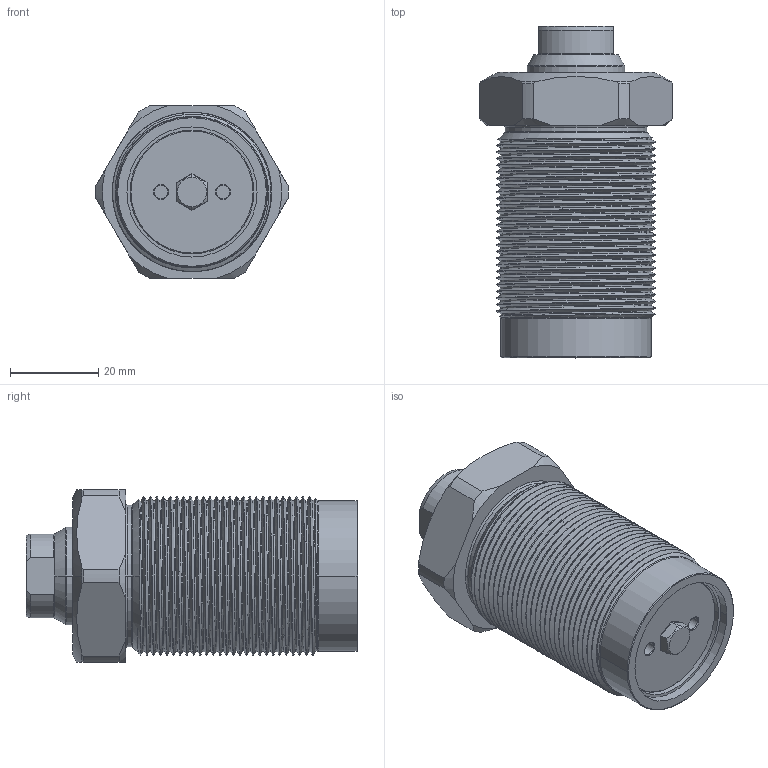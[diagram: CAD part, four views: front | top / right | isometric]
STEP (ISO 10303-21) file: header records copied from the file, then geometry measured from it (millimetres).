
FILE_DESCRIPTION((''),'2;1');
FILE_NAME('SIMP_PUSH_CYLINDER_36_ASM','2023-04-17T10:43:17',('Design 2'),(''),'CREO PARAMETRIC BY PTC INC, 2020053','CREO PARAMETRIC BY PTC INC, 2020053','');
FILE_SCHEMA(('CONFIG_CONTROL_DESIGN'));
Length unit declared in the file: millimetre
Products named in the file (5): THREADED_BODY__; ROD__; WASHER__; PISTON___ASM; SIMP_PUSH_CYLINDER_36_ASM
Assembly tree (4 placements, depth 3):
  SIMP_PUSH_CYLINDER_36_ASM
    THREADED_BODY__
    PISTON___ASM
      ROD__
      WASHER__
Bounding box: 43.49 x 75 x 39 mm (x, y, z)
Volume: 63801.4 mm3; surface area: 24559.7 mm2
Topology: 3 solids, 3 shells, 216 faces, 551 edges, 348 vertices
Faces by surface type: cylinder 103, cone 39, bspline 32, plane 30, torus 10, sphere 2
Entity records: 18213 total; most frequent: CARTESIAN_POINT 13286, ORIENTED_EDGE 1102, DIRECTION 856, EDGE_CURVE 551, VERTEX_POINT 348, AXIS2_PLACEMENT_3D 336, EDGE_LOOP 229, B_SPLINE_CURVE_WITH_KNOTS 226
